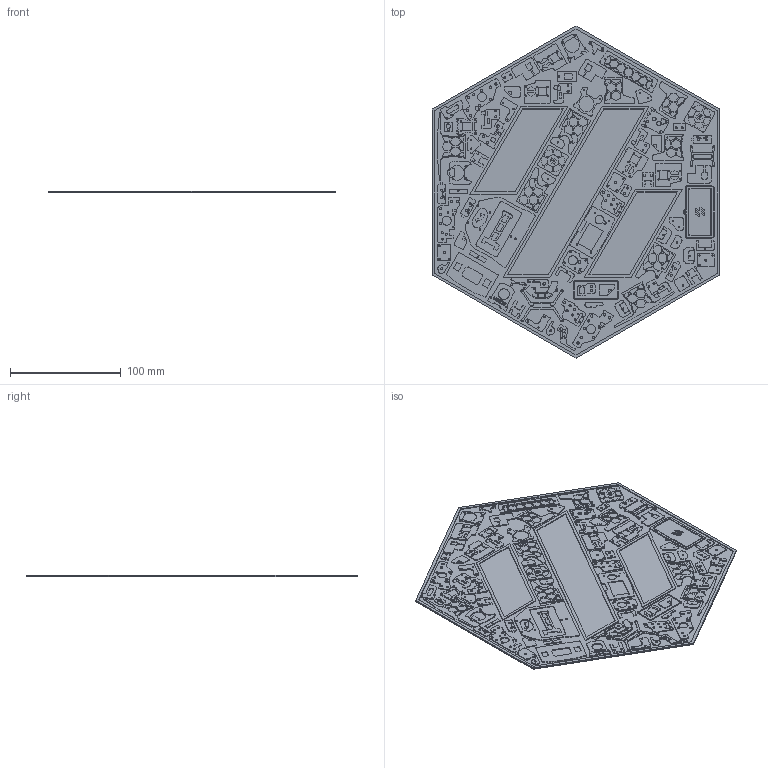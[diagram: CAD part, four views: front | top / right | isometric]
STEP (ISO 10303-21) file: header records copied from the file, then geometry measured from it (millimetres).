
FILE_DESCRIPTION(/* description */ (''),/* implementation_level */ '2;1');
FILE_NAME(/* name */ 'F:/Voron 2.4 Build/CAD/myVoron2.4MODS/PartsLogo/Voron2.4DesignLogo v34.step',/* time_stamp */ '2021-12-23T15:08:33-05:00',/* author */ (''),/* organization */ (''),/* preprocessor_version */ 'ST-DEVELOPER v18.1',/* originating_system */ 'Autodesk Translation Framework v10.10.0.1391',/* authorisation */ '');
FILE_SCHEMA (('AUTOMOTIVE_DESIGN { 1 0 10303 214 3 1 1 }'));
Products named in the file (92): Voron2.4DesignLogo; blower_housing_front; hexagon; D-filter_access_cover; blower_housing_rear; hotend_fan_mount; x_carriage_frame_left; endstop_pod_microswitch; xy_joint_cable_bridge_xxxx; xy_joint_left_lower; xy_joint_right_lower; z_belt_clip_lower_x4; z_belt_clip_upper_x4; z_chain_bottom_anchor; D-Trident-tensioner_left; D-tensioner_right; front_idler_left_lower; front_idler_right_lower; front_idler_right_upper; front_idler_right_upper (1); printhead_front_mosquito; printhead_rear_mosquito; D-skr_1.3_1.4_bracket_x2; D-raspberrypi_bracket; mini12864_spacer; mini12864_case_front; plug_panel; D-exhaust_filter_grill; door_hinge_x4; door_hinge2A_x4; handle_b_x2; handle_b_x2_2; handle_a_x2; handle_b_x2 (1); door_hinge_x4 (1); latch_x2; latch_x2 (1); bottom_panel_clip_x4; midspan_panel_clip_6mm_x3; midspan_panel_clip_6mm_x3 (1)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
Assembly tree (91 placements, depth 2):
  Voron2.4DesignLogo
    blower_housing_front
    hexagon
    D-filter_access_cover
    blower_housing_rear
    hotend_fan_mount
    x_carriage_frame_left
    endstop_pod_microswitch
    xy_joint_cable_bridge_xxxx
    xy_joint_left_lower
    xy_joint_right_lower
    z_belt_clip_lower_x4
    z_belt_clip_upper_x4
    z_chain_bottom_anchor
    D-Trident-tensioner_left
    D-tensioner_right
    front_idler_left_lower
    front_idler_right_lower
    front_idler_right_upper
    front_idler_right_upper (1)
    printhead_front_mosquito
    printhead_rear_mosquito
    D-skr_1.3_1.4_bracket_x2
    D-raspberrypi_bracket
    mini12864_spacer
    mini12864_case_front
    plug_panel
    D-exhaust_filter_grill
    door_hinge_x4
    door_hinge2A_x4
    handle_b_x2
    handle_b_x2_2
    handle_a_x2
    handle_b_x2 (1)
    door_hinge_x4 (1)
    latch_x2
    latch_x2 (1)
    bottom_panel_clip_x4
    midspan_panel_clip_6mm_x3
    midspan_panel_clip_6mm_x3 (1)
    midspan_panel_clip_6mm_x3 (2)
    corner_panel_clip_6mm_x4
    corner_panel_clip_6mm_x4 (1)
    corner_panel_clip_6mm_x4 (2)
    z_belt_cover_a_x2
    z_belt_cover_a_x2 (1)
    z_belt_cover_b_x2
    [a]_latch
    latch_shuttle
    extruder_motor_plate
    extruder_body
    [a]_cable_cover
    D-a_drive_frame_lower
    D-b_drive_frame_upper
    D-b_drive_frame_lower
    D-exhaust_filter_housing
    bowen_retainer
    spool_holder
    side_fan_support_x2
    side_fan_support_x2 (1)
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Bounding box: 259.85 x 300.05 x 1.5 mm (x, y, z)
Volume: 55649 mm3; surface area: 287978 mm2
Topology: 101 solids, 101 shells, 3878 faces, 10993 edges, 7313 vertices
Faces by surface type: cylinder 1788, plane 1766, cone 229, bspline 85, torus 7, sphere 3
Full cylindrical faces by diameter (mm): 0.671 x4, 1.024 x4, 1.13 x4, 1.194 x1, 1.2 x85, 1.235 x8, 1.236 x7, 1.248 x2, 1.284 x1, 1.412 x1, 1.553 x1, 1.659 x9, 1.694 x1, 1.906 x37, 1.941 x3, 1.942 x2, 2.019 x1, 2.118 x5, 2.189 x12, 2.4 x4, 2.612 x1, 3.283 x1, 3.618 x1, 3.75 x1, 8.119 x2, 8.137 x1, 13.696 x1
Entity records: 143034 total; most frequent: CARTESIAN_POINT 34901, DIRECTION 22622, ORIENTED_EDGE 21972, EDGE_CURVE 10986, AXIS2_PLACEMENT_3D 8024, VERTEX_POINT 7313, LINE 6574, VECTOR 6574
